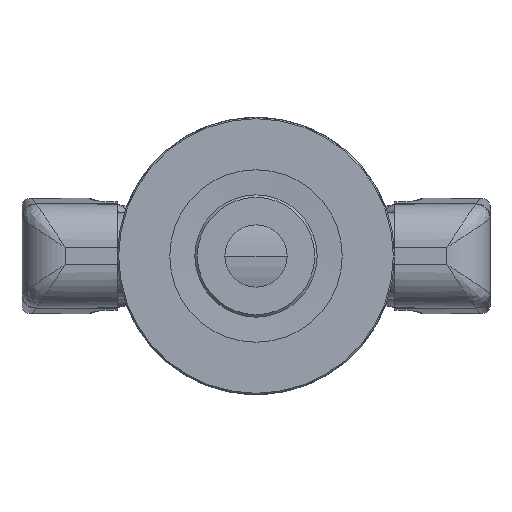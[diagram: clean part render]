
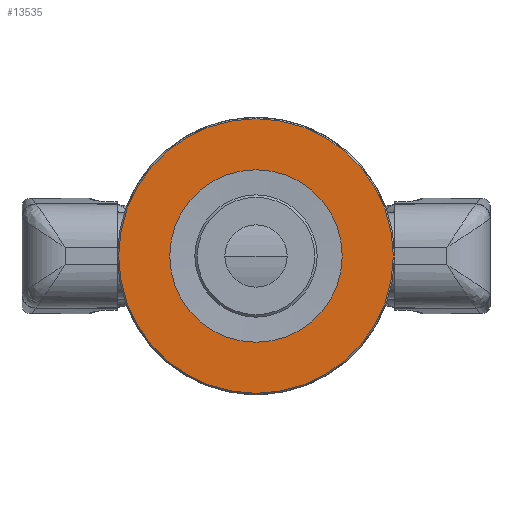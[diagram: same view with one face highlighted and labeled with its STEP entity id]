
A CAD part, front view. The second image highlights one B-rep face of the part: STEP entity #13535.
In plain terms, the highlighted planar face has unit normal (0, -1, 0) as drawn and (0, 0, -1) by its records, which use the part's own axes.
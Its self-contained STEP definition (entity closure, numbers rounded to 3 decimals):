
#276=FACE_BOUND('',#4133,.T.);
#725=CIRCLE('',#14584,22.3);
#727=CIRCLE('',#14588,14.);
#2493=PLANE('',#14587);
#3274=FACE_OUTER_BOUND('',#4132,.T.);
#4132=EDGE_LOOP('',(#12384));
#4133=EDGE_LOOP('',(#12385));
#6298=VERTEX_POINT('',#43922);
#6300=VERTEX_POINT('',#43928);
#8330=EDGE_CURVE('',#6298,#6298,#725,.T.);
#8332=EDGE_CURVE('',#6300,#6300,#727,.T.);
#12384=ORIENTED_EDGE('',*,*,#8330,.F.);
#12385=ORIENTED_EDGE('',*,*,#8332,.F.);
#13535=ADVANCED_FACE('',(#3274,#276),#2493,.F.);
#14584=AXIS2_PLACEMENT_3D('',#43923,#17257,#17258);
#14587=AXIS2_PLACEMENT_3D('',#43927,#17263,#17264);
#14588=AXIS2_PLACEMENT_3D('',#43929,#17265,#17266);
#17257=DIRECTION('center_axis',(0.,0.,1.));
#17258=DIRECTION('ref_axis',(-1.,0.,0.));
#17263=DIRECTION('center_axis',(0.,0.,1.));
#17264=DIRECTION('ref_axis',(1.,0.,0.));
#17265=DIRECTION('center_axis',(0.,0.,-1.));
#17266=DIRECTION('ref_axis',(-1.,0.,0.));
#43922=CARTESIAN_POINT('',(22.3,0.,0.));
#43923=CARTESIAN_POINT('Origin',(0.,0.,0.));
#43927=CARTESIAN_POINT('Origin',(0.,0.,0.));
#43928=CARTESIAN_POINT('',(14.,0.,0.));
#43929=CARTESIAN_POINT('Origin',(0.,0.,0.));
